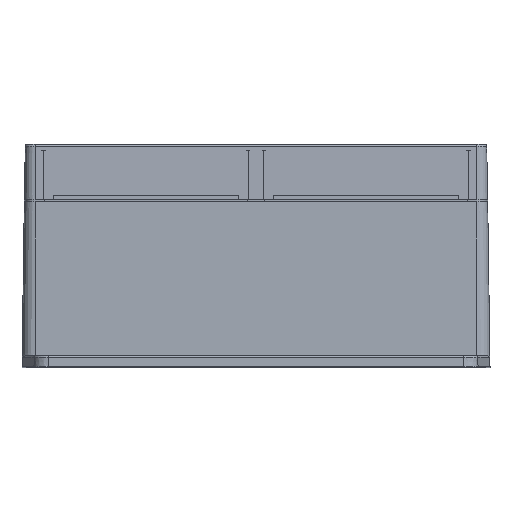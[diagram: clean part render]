
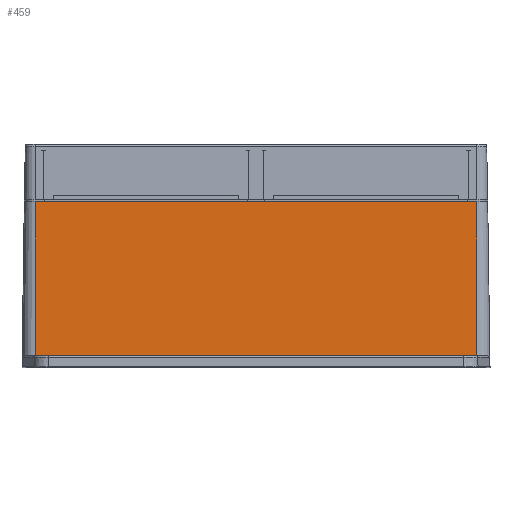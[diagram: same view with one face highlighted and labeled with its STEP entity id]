
A CAD part, top view. The second image highlights one B-rep face of the part: STEP entity #459.
In plain terms, the highlighted planar face has unit normal (0, 0.014, 1).
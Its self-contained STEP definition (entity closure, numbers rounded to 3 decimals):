
#98 = AXIS2_PLACEMENT_3D ( 'NONE', #7312, #30626, #4395 ) ;
#459 = ADVANCED_FACE ( 'NONE', ( #17090 ), #23750, .T. ) ;
#1295 = DIRECTION ( 'NONE',  ( 0., 1., -0.014 ) ) ;
#2184 = CARTESIAN_POINT ( 'NONE',  ( -119., -84., 126.173 ) ) ;
#2691 = LINE ( 'NONE', #43338, #16914 ) ;
#4387 = CARTESIAN_POINT ( 'NONE',  ( -119., 0., 125. ) ) ;
#4395 = DIRECTION ( 'NONE',  ( 0., -1., 0.014 ) ) ;
#4492 = VECTOR ( 'NONE', #32030, 1000. ) ;
#4929 = CARTESIAN_POINT ( 'NONE',  ( 119., -1., 125.014 ) ) ;
#5822 = ORIENTED_EDGE ( 'NONE', *, *, #35438, .T. ) ;
#6976 = ORIENTED_EDGE ( 'NONE', *, *, #23859, .T. ) ;
#7312 = CARTESIAN_POINT ( 'NONE',  ( 119., 0., 125. ) ) ;
#8571 = EDGE_CURVE ( 'NONE', #26761, #33907, #21947, .T. ) ;
#11956 = VECTOR ( 'NONE', #35491, 1000. ) ;
#16274 = CARTESIAN_POINT ( 'NONE',  ( 119., -1., 125.014 ) ) ;
#16914 = VECTOR ( 'NONE', #33786, 1000. ) ;
#17090 = FACE_OUTER_BOUND ( 'NONE', #40087, .T. ) ;
#18408 = CARTESIAN_POINT ( 'NONE',  ( 119., 0., 125. ) ) ;
#20886 = VERTEX_POINT ( 'NONE', #23643 ) ;
#21830 = LINE ( 'NONE', #4929, #4492 ) ;
#21947 = LINE ( 'NONE', #4387, #24222 ) ;
#23643 = CARTESIAN_POINT ( 'NONE',  ( 119., -84., 126.173 ) ) ;
#23750 = PLANE ( 'NONE',  #98 ) ;
#23859 = EDGE_CURVE ( 'NONE', #20886, #27565, #25499, .T. ) ;
#24222 = VECTOR ( 'NONE', #1295, 1000. ) ;
#24514 = CARTESIAN_POINT ( 'NONE',  ( -119., -1., 125.014 ) ) ;
#25499 = LINE ( 'NONE', #18408, #11956 ) ;
#26761 = VERTEX_POINT ( 'NONE', #2184 ) ;
#27565 = VERTEX_POINT ( 'NONE', #16274 ) ;
#30626 = DIRECTION ( 'NONE',  ( 0., 0.014, 1. ) ) ;
#30627 = ORIENTED_EDGE ( 'NONE', *, *, #43076, .T. ) ;
#30794 = ORIENTED_EDGE ( 'NONE', *, *, #8571, .F. ) ;
#32030 = DIRECTION ( 'NONE',  ( -1., 0., 0. ) ) ;
#33786 = DIRECTION ( 'NONE',  ( 1., 0., 0. ) ) ;
#33907 = VERTEX_POINT ( 'NONE', #24514 ) ;
#35438 = EDGE_CURVE ( 'NONE', #26761, #20886, #2691, .T. ) ;
#35491 = DIRECTION ( 'NONE',  ( 0., 1., -0.014 ) ) ;
#40087 = EDGE_LOOP ( 'NONE', ( #6976, #30627, #30794, #5822 ) ) ;
#43076 = EDGE_CURVE ( 'NONE', #27565, #33907, #21830, .T. ) ;
#43338 = CARTESIAN_POINT ( 'NONE',  ( 119., -84., 126.173 ) ) ;
